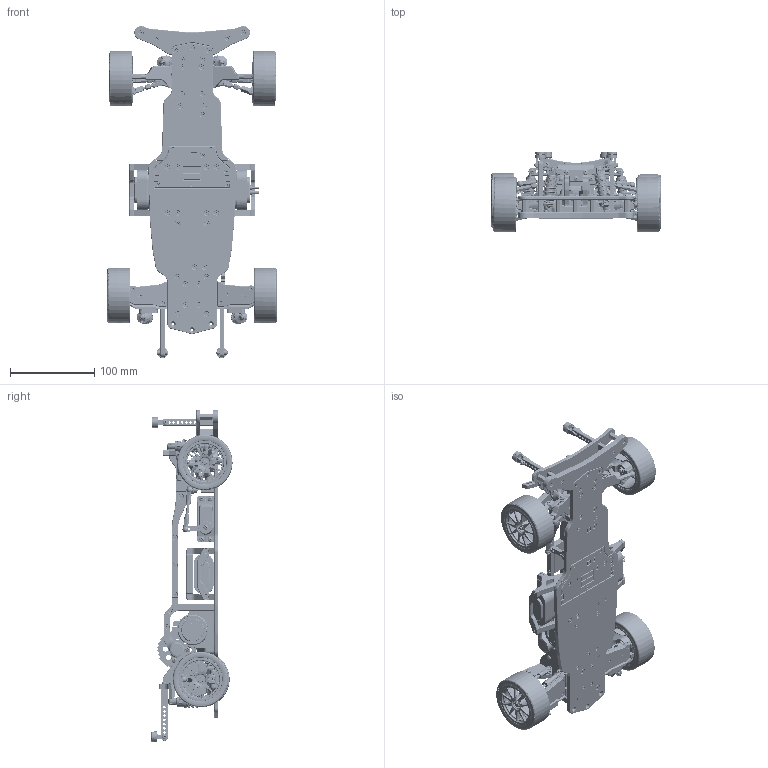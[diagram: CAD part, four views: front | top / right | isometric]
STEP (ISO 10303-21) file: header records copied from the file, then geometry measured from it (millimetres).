
FILE_DESCRIPTION (( 'STEP AP214' ), '1' );
FILE_NAME ('RC_Chassis_Assembly_v1_BigBattery.STEP', '2023-05-11T18:57:40', ( '' ), ( '' ), 'SwSTEP 2.0', 'SolidWorks 2022', '' );
FILE_SCHEMA (( 'AUTOMOTIVE_DESIGN' ));
Length unit declared in the file: millimetre
Products named in the file (102): Rear_Axle_1; M3_Nut; 48P25T x 4mm Pinion_edited; M3x30_RoundHead; Rear_Suspension_Mount; M3x10_Countersunk; Savox SC-1258TG; Knuckle_Front_LHS; Steering_Support; Knuckle_Front_RHS; Front_Shock_Tower_v1; Motor_Mount_Support; cheetah_По умолчанию; Steering Bracket; Hex_12_Front; GearBox_Case; RodEnd_4,8x22mm; Steering_Arm_RHS; Servo_Bracket; Rear_Axle_4; M2x4_Countersunk; Front_Upper_Arm_RHS; Shaft 2; Rear_Axle; Rear_Knuckle_v1; Rear_Lower_Arm_v3; Pin 3x42; M3 Nyloc Nut; Battery_NiMH_2_Défaut; Rear_Shock_Hex; Front_Suspension_Mount; Screw Top; 48P87T_5mm_Spur; Chassis_Plate_v2; M3x30_SetScrew; Front_Lower_Arm_v4_RHS; TopSusp; Hex_12; Main Shaft_v4; Shock_63,5mm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
Assembly tree (355 placements, depth 3):
  RC_Chassis_Assembly_v1_BigBattery
    Front_Suspension_Mount  x2
    Front_Upper_Arm_Mount
    Knuckle_Front_LHS
    Spacer_3x6x3  x4
    Front_Upper_Arm
    Spacer_2x5x2  x4
    Ball Stud 4,8x5  x18
    RodEnd_4,8x22mm  x10
    Turnbuckel_25mm  x6
    Rear_Suspension_Mount  x2
    Rear_Lower_Arm_v3
    Spacer_3x5,5x2  x4
    Chassis_Plate_v2
    GearBox_Case
    GearBox_Case_RHS_v3
    Shaft 2
    Main Shaft_v4
    10x15x4_ball_bearing  x5
    8x12x3,5_ball_bearing  x4
    60TM0,6x10_Gear_edited_v2
    26TM0,6x10_Gear_edited
    20TM0,6x10_Gear_Edited
    Disk
    48P87T_5mm_Spur
    Motor_Mount_Bracket_RHS_v2
    Motor_Mount_Bracket_LHS
    Motor_Mount_Support
    Motor_mount_v2
    Servo_Bracket  x2
    cheetah_По умолчанию
    48P25T x 4mm Pinion_edited
    Steering Bracket
    Steering_Support
    Steering_Spacer_lower  x2
    Steering_Arm_LHS
    Steering_Spacer_upper  x2
    3x6x2,5_ball_bearing  x8
    Steering_arm_main
    Front_Upper_Arm_Mount_RHS
    Deck_LHS
    Wheel_Tyre  x4
    Front_Lower_Arm_v4
    Front_Upper_Arm_RHS
    Front_Lower_Arm_v4_RHS
    Knuckle_Front_RHS
    Rear_Lower_Arm_v3_RHS
    Steering_Arm_RHS
    Steering_Arm_servo
    Ball Stud 5,5x6  x4
    RodEnd_18mm  x4
    Rear_Axle_Joint  x2
    Rear_Knuckle_v1  x2
    5x11x4_ball_bearing  x6
    Rear_Axle
      Rear_Axle_1
      Rear_Axle_2
      Rear_Axle_3
      Rear_Axle_4
    Hex_12  x2
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Bounding box: 201.07 x 96.13 x 393.43 mm (x, y, z)
Volume: 717918 mm3; surface area: 523179.6 mm2
Topology: 397 solids, 411 shells, 24006 faces, 57951 edges, 34722 vertices
Faces by surface type: plane 8075, cylinder 6520, bspline 3689, cone 3307, torus 1843, sphere 572
Entity records: 403484 total; most frequent: CARTESIAN_POINT 138456, ORIENTED_EDGE 54028, DIRECTION 51168, EDGE_CURVE 27017, AXIS2_PLACEMENT_3D 19863, VERTEX_POINT 16514, EDGE_LOOP 12049, VECTOR 11442
